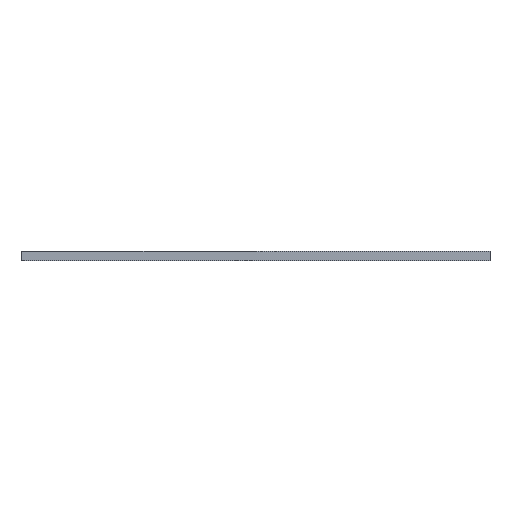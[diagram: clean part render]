
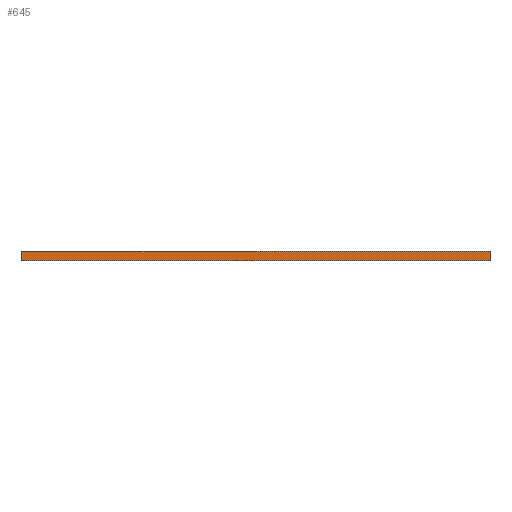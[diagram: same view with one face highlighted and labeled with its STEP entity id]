
A CAD part, front view. The second image highlights one B-rep face of the part: STEP entity #645.
In plain terms, the highlighted planar face has unit normal (0, -1, 0).
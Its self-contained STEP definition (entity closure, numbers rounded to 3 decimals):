
#9 = ORIENTED_EDGE ( 'NONE', *, *, #358, .F. ) ;
#30 = VECTOR ( 'NONE', #506, 1000. ) ;
#62 = LINE ( 'NONE', #296, #325 ) ;
#70 = ORIENTED_EDGE ( 'NONE', *, *, #599, .T. ) ;
#72 = PLANE ( 'NONE',  #238 ) ;
#113 = CARTESIAN_POINT ( 'NONE',  ( 71., 0., 1.5 ) ) ;
#137 = DIRECTION ( 'NONE',  ( 1., 0., 0. ) ) ;
#219 = EDGE_CURVE ( 'NONE', #813, #266, #843, .T. ) ;
#238 = AXIS2_PLACEMENT_3D ( 'NONE', #596, #891, #499 ) ;
#251 = ORIENTED_EDGE ( 'NONE', *, *, #662, .T. ) ;
#266 = VERTEX_POINT ( 'NONE', #701 ) ;
#292 = CARTESIAN_POINT ( 'NONE',  ( -71., 0., -1.5 ) ) ;
#296 = CARTESIAN_POINT ( 'NONE',  ( -71., 0., 1.5 ) ) ;
#297 = CARTESIAN_POINT ( 'NONE',  ( -71., 0., 1.5 ) ) ;
#325 = VECTOR ( 'NONE', #820, 1000. ) ;
#358 = EDGE_CURVE ( 'NONE', #374, #813, #719, .T. ) ;
#360 = CARTESIAN_POINT ( 'NONE',  ( -71., 0., 1.5 ) ) ;
#361 = FACE_OUTER_BOUND ( 'NONE', #915, .T. ) ;
#374 = VERTEX_POINT ( 'NONE', #297 ) ;
#384 = CARTESIAN_POINT ( 'NONE',  ( 71., 0., 1.5 ) ) ;
#404 = DIRECTION ( 'NONE',  ( 0., 0., -1. ) ) ;
#499 = DIRECTION ( 'NONE',  ( 0., 0., 1. ) ) ;
#506 = DIRECTION ( 'NONE',  ( 1., 0., 0. ) ) ;
#565 = ORIENTED_EDGE ( 'NONE', *, *, #219, .F. ) ;
#596 = CARTESIAN_POINT ( 'NONE',  ( -71., 0., 1.5 ) ) ;
#599 = EDGE_CURVE ( 'NONE', #704, #266, #916, .T. ) ;
#645 = ADVANCED_FACE ( 'NONE', ( #361 ), #72, .F. ) ;
#662 = EDGE_CURVE ( 'NONE', #374, #704, #62, .T. ) ;
#701 = CARTESIAN_POINT ( 'NONE',  ( 71., 0., -1.5 ) ) ;
#704 = VERTEX_POINT ( 'NONE', #732 ) ;
#705 = VECTOR ( 'NONE', #137, 1000. ) ;
#719 = LINE ( 'NONE', #360, #30 ) ;
#732 = CARTESIAN_POINT ( 'NONE',  ( -71., 0., -1.5 ) ) ;
#813 = VERTEX_POINT ( 'NONE', #384 ) ;
#820 = DIRECTION ( 'NONE',  ( 0., 0., -1. ) ) ;
#843 = LINE ( 'NONE', #113, #960 ) ;
#891 = DIRECTION ( 'NONE',  ( 0., 1., 0. ) ) ;
#915 = EDGE_LOOP ( 'NONE', ( #70, #565, #9, #251 ) ) ;
#916 = LINE ( 'NONE', #292, #705 ) ;
#960 = VECTOR ( 'NONE', #404, 1000. ) ;
